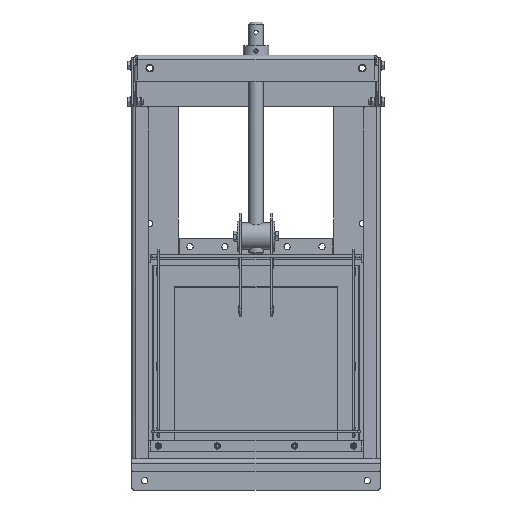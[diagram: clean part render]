
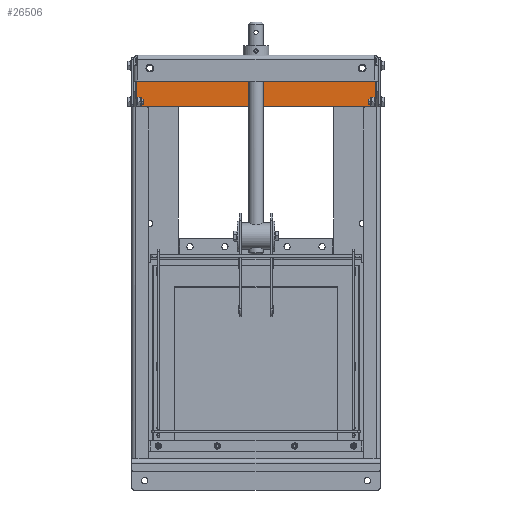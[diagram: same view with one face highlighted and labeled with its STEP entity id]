
A CAD part, front view. The second image highlights one B-rep face of the part: STEP entity #26506.
In plain terms, the highlighted planar face has unit normal (0, -1, 0).
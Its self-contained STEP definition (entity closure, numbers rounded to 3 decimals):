
#66 = FACE_BOUND ( 'NONE', #43057, .T. ) ;
#1869 = DIRECTION ( 'NONE',  ( 0., 0., -1. ) ) ;
#1891 = CARTESIAN_POINT ( 'NONE',  ( 230.332, -8., 772. ) ) ;
#2141 = AXIS2_PLACEMENT_3D ( 'NONE', #75234, #68557, #54881 ) ;
#2314 = CARTESIAN_POINT ( 'NONE',  ( 205., -8., 755. ) ) ;
#3210 = DIRECTION ( 'NONE',  ( 0., 1., 0. ) ) ;
#3383 = ORIENTED_EDGE ( 'NONE', *, *, #16322, .T. ) ;
#4289 = LINE ( 'NONE', #6154, #23014 ) ;
#5889 = DIRECTION ( 'NONE',  ( 0., 1., 0. ) ) ;
#5975 = EDGE_LOOP ( 'NONE', ( #3383, #38419, #64778, #50183, #49703, #22818 ) ) ;
#6154 = CARTESIAN_POINT ( 'NONE',  ( 231.151, -8., 729.928 ) ) ;
#8284 = VECTOR ( 'NONE', #9774, 1000. ) ;
#9774 = DIRECTION ( 'NONE',  ( -1., 0., 0. ) ) ;
#11725 = EDGE_CURVE ( 'NONE', #83337, #34041, #82168, .T. ) ;
#12338 = DIRECTION ( 'NONE',  ( 1., 0., 0. ) ) ;
#13456 = CIRCLE ( 'NONE', #27596, 5. ) ;
#14554 = ORIENTED_EDGE ( 'NONE', *, *, #11725, .T. ) ;
#16322 = EDGE_CURVE ( 'NONE', #27524, #35727, #4289, .T. ) ;
#20764 = CIRCLE ( 'NONE', #35402, 6.245 ) ;
#22422 = CARTESIAN_POINT ( 'NONE',  ( 231.151, -8., 680. ) ) ;
#22818 = ORIENTED_EDGE ( 'NONE', *, *, #51437, .T. ) ;
#23014 = VECTOR ( 'NONE', #32955, 1000. ) ;
#23706 = DIRECTION ( 'NONE',  ( 0., 1., 0. ) ) ;
#23988 = CARTESIAN_POINT ( 'NONE',  ( 205., -8., 755. ) ) ;
#24291 = VERTEX_POINT ( 'NONE', #50580 ) ;
#25728 = CARTESIAN_POINT ( 'NONE',  ( -205., -8., 755. ) ) ;
#26506 = ADVANCED_FACE ( 'NONE', ( #66993, #66, #32426 ), #73808, .T. ) ;
#27405 = EDGE_LOOP ( 'NONE', ( #65885, #14554 ) ) ;
#27524 = VERTEX_POINT ( 'NONE', #22422 ) ;
#27596 = AXIS2_PLACEMENT_3D ( 'NONE', #47217, #61269, #53409 ) ;
#28517 = CARTESIAN_POINT ( 'NONE',  ( -198.755, -8., 755. ) ) ;
#28568 = ORIENTED_EDGE ( 'NONE', *, *, #75987, .T. ) ;
#28935 = CIRCLE ( 'NONE', #59608, 5. ) ;
#29690 = DIRECTION ( 'NONE',  ( 1., 0., 0. ) ) ;
#30250 = EDGE_CURVE ( 'NONE', #39834, #52654, #55445, .T. ) ;
#31140 = ORIENTED_EDGE ( 'NONE', *, *, #78440, .T. ) ;
#32038 = CARTESIAN_POINT ( 'NONE',  ( -211.245, -8., 755. ) ) ;
#32083 = DIRECTION ( 'NONE',  ( 0., 1., 0. ) ) ;
#32426 = FACE_OUTER_BOUND ( 'NONE', #5975, .T. ) ;
#32955 = DIRECTION ( 'NONE',  ( 0., 0., 1. ) ) ;
#34041 = VERTEX_POINT ( 'NONE', #28517 ) ;
#35402 = AXIS2_PLACEMENT_3D ( 'NONE', #2314, #3210, #29690 ) ;
#35727 = VERTEX_POINT ( 'NONE', #53551 ) ;
#36926 = EDGE_CURVE ( 'NONE', #34041, #83337, #76068, .T. ) ;
#37751 = CARTESIAN_POINT ( 'NONE',  ( -231.151, -8., 771.882 ) ) ;
#38419 = ORIENTED_EDGE ( 'NONE', *, *, #78881, .T. ) ;
#39127 = CARTESIAN_POINT ( 'NONE',  ( -231.452, -8., 776.873 ) ) ;
#39134 = DIRECTION ( 'NONE',  ( 0., 1., 0. ) ) ;
#39566 = LINE ( 'NONE', #41295, #8284 ) ;
#39834 = VERTEX_POINT ( 'NONE', #37751 ) ;
#41220 = AXIS2_PLACEMENT_3D ( 'NONE', #25728, #39134, #52672 ) ;
#41295 = CARTESIAN_POINT ( 'NONE',  ( 0., -8., 772. ) ) ;
#42596 = DIRECTION ( 'NONE',  ( 1., 0., 0. ) ) ;
#42666 = CARTESIAN_POINT ( 'NONE',  ( 198.755, -8., 755. ) ) ;
#43057 = EDGE_LOOP ( 'NONE', ( #31140, #28568 ) ) ;
#43203 = VERTEX_POINT ( 'NONE', #1891 ) ;
#44049 = CARTESIAN_POINT ( 'NONE',  ( 211.245, -8., 755. ) ) ;
#45314 = CARTESIAN_POINT ( 'NONE',  ( -205., -8., 755. ) ) ;
#47217 = CARTESIAN_POINT ( 'NONE',  ( 231.452, -8., 776.873 ) ) ;
#49703 = ORIENTED_EDGE ( 'NONE', *, *, #30250, .T. ) ;
#50183 = ORIENTED_EDGE ( 'NONE', *, *, #86013, .T. ) ;
#50580 = CARTESIAN_POINT ( 'NONE',  ( -230.332, -8., 772. ) ) ;
#51437 = EDGE_CURVE ( 'NONE', #52654, #27524, #73233, .T. ) ;
#52386 = VECTOR ( 'NONE', #42596, 1000. ) ;
#52654 = VERTEX_POINT ( 'NONE', #72381 ) ;
#52662 = DIRECTION ( 'NONE',  ( 1., 0., 0. ) ) ;
#52672 = DIRECTION ( 'NONE',  ( 1., 0., 0. ) ) ;
#53409 = DIRECTION ( 'NONE',  ( 1., 0., 0. ) ) ;
#53551 = CARTESIAN_POINT ( 'NONE',  ( 231.151, -8., 771.882 ) ) ;
#53802 = VERTEX_POINT ( 'NONE', #42666 ) ;
#54881 = DIRECTION ( 'NONE',  ( -1., 0., 0. ) ) ;
#55445 = LINE ( 'NONE', #75408, #66964 ) ;
#58494 = EDGE_CURVE ( 'NONE', #43203, #24291, #39566, .T. ) ;
#59608 = AXIS2_PLACEMENT_3D ( 'NONE', #39127, #5889, #52662 ) ;
#61269 = DIRECTION ( 'NONE',  ( 0., 1., 0. ) ) ;
#63283 = AXIS2_PLACEMENT_3D ( 'NONE', #45314, #32083, #12338 ) ;
#64341 = DIRECTION ( 'NONE',  ( 1., 0., 0. ) ) ;
#64778 = ORIENTED_EDGE ( 'NONE', *, *, #58494, .T. ) ;
#65478 = CIRCLE ( 'NONE', #68700, 6.245 ) ;
#65885 = ORIENTED_EDGE ( 'NONE', *, *, #36926, .T. ) ;
#66932 = VERTEX_POINT ( 'NONE', #44049 ) ;
#66964 = VECTOR ( 'NONE', #1869, 1000. ) ;
#66993 = FACE_BOUND ( 'NONE', #27405, .T. ) ;
#68557 = DIRECTION ( 'NONE',  ( 0., -1., 0. ) ) ;
#68700 = AXIS2_PLACEMENT_3D ( 'NONE', #23988, #23706, #64341 ) ;
#72381 = CARTESIAN_POINT ( 'NONE',  ( -231.151, -8., 680. ) ) ;
#73233 = LINE ( 'NONE', #83692, #52386 ) ;
#73808 = PLANE ( 'NONE',  #2141 ) ;
#75234 = CARTESIAN_POINT ( 'NONE',  ( 0., -8., 729.928 ) ) ;
#75408 = CARTESIAN_POINT ( 'NONE',  ( -231.151, -8., 729.928 ) ) ;
#75987 = EDGE_CURVE ( 'NONE', #53802, #66932, #65478, .T. ) ;
#76068 = CIRCLE ( 'NONE', #41220, 6.245 ) ;
#78440 = EDGE_CURVE ( 'NONE', #66932, #53802, #20764, .T. ) ;
#78881 = EDGE_CURVE ( 'NONE', #35727, #43203, #13456, .T. ) ;
#82168 = CIRCLE ( 'NONE', #63283, 6.245 ) ;
#83337 = VERTEX_POINT ( 'NONE', #32038 ) ;
#83692 = CARTESIAN_POINT ( 'NONE',  ( 0., -8., 680. ) ) ;
#86013 = EDGE_CURVE ( 'NONE', #24291, #39834, #28935, .T. ) ;
